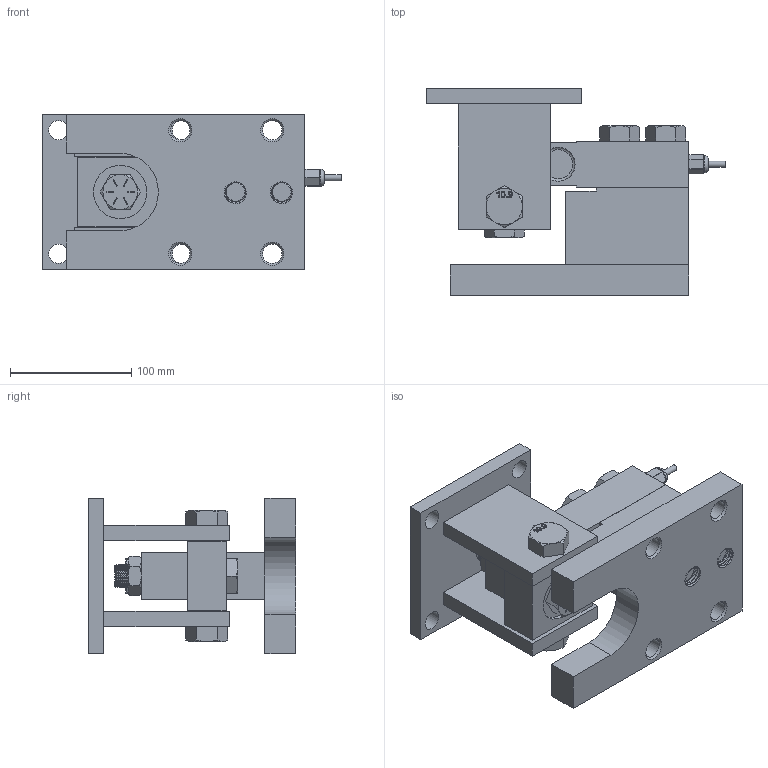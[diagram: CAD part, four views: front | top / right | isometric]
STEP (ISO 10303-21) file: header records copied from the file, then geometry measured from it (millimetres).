
FILE_DESCRIPTION(/* description */ (''),/* implementation_level */ '2;1');
FILE_NAME(/* name */ 'C:/Users/fardi/Dropbox/Work/Anyload/Load Cell Models/Product Catalog 3D/Weight Modules/563/563YHM2/563YHM2-(5-10)klb v4.step',/* time_stamp */ '2020-05-11T12:15:52-07:00',/* author */ (''),/* organization */ (''),/* preprocessor_version */ 'ST-DEVELOPER v18.1',/* originating_system */ 'Autodesk Translation Framework v9.2.0.1227',/* authorisation */ '');
FILE_SCHEMA (('AUTOMOTIVE_DESIGN { 1 0 10303 214 3 1 1 }'));
Products named in the file (8): 563YHM2-(5-10)klb; Base; 563YH-(2.5-5)t; Top; 91310A155; 91257A854; 91257A878; 94846A540
Assembly tree (9 placements, depth 2):
  563YHM2-(5-10)klb
    Base
    563YH-(2.5-5)t
    Top
    91310A155  x2
    91257A854  x2
    91257A878
    94846A540
Bounding box: 246.5 x 171.1 x 128 mm (x, y, z)
Volume: 1558661.2 mm3; surface area: 274471.5 mm2
Topology: 10 solids, 10 shells, 718 faces, 1903 edges, 1248 vertices
Faces by surface type: cylinder 354, plane 213, bspline 83, cone 65, torus 3
Full cylindrical faces by diameter (mm): 5.1 x1, 14 x1, 15.75 x32, 16 x8, 16.5 x1, 16.573 x18, 16.752 x24, 16.988 x32, 17.519 x15, 19.05 x90, 19.8 x2, 20 x24, 20.293 x15, 22 x1, 30.2 x1, 44 x1
Entity records: 39240 total; most frequent: CARTESIAN_POINT 26758, ORIENTED_EDGE 2910, DIRECTION 2036, EDGE_CURVE 1455, VERTEX_POINT 953, AXIS2_PLACEMENT_3D 723, EDGE_LOOP 614, LINE 590
